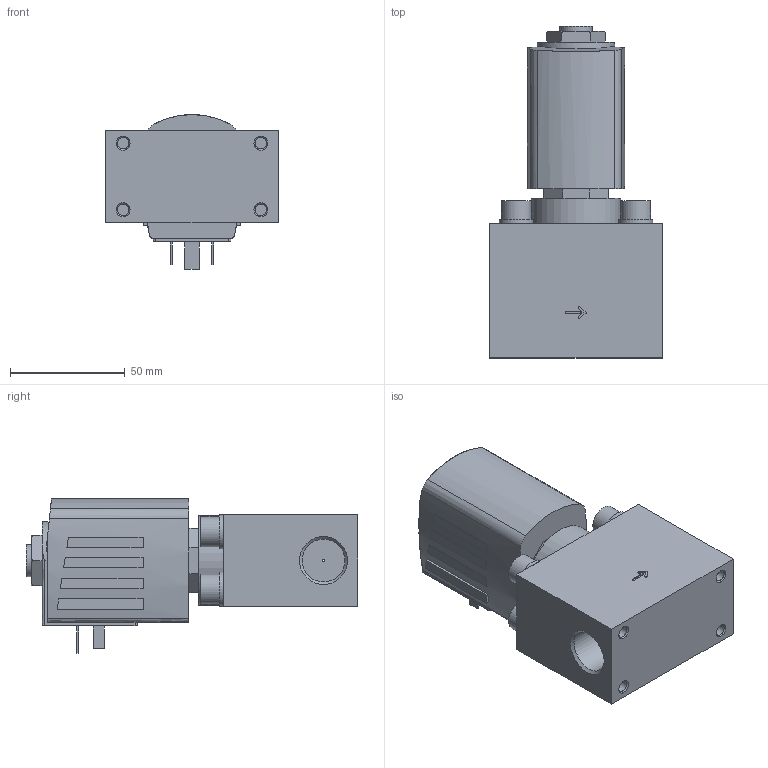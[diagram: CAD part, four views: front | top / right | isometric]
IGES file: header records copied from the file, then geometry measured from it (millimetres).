
Start section: Data from Parasolid IGES Translator 26.0.171, Copyright(c) 2006 Siemens PLM Software. All Rights Reserved.
Global section: file name: 6240-374995-2_2-way_solenoid_valve__pilot-controlled.igs; native system: By Siemens PLM Incorporated; preprocessor: XPlus GENERIC/IGES 26.0.171; author: Noname; organization: Noname; date: 20240510.122900; units: millimetre
Bounding box: 75 x 144.7 x 67.5 mm (x, y, z)
Surface area: 42501.7 mm2 (no closed solid volume)
Topology: 0 solids, 0 shells, 195 faces, 926 edges, 886 vertices
Faces by surface type: extrusion 141, revolution 54
